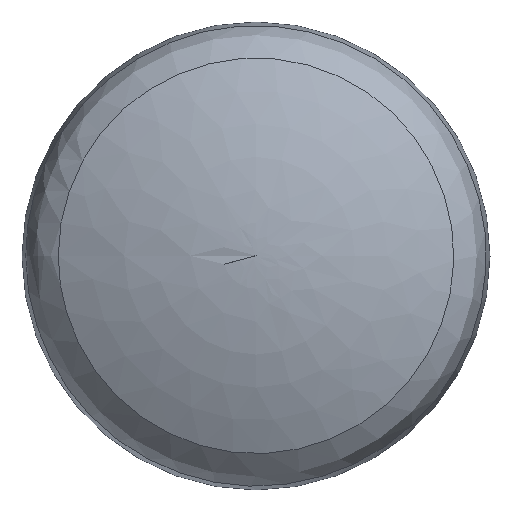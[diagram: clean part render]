
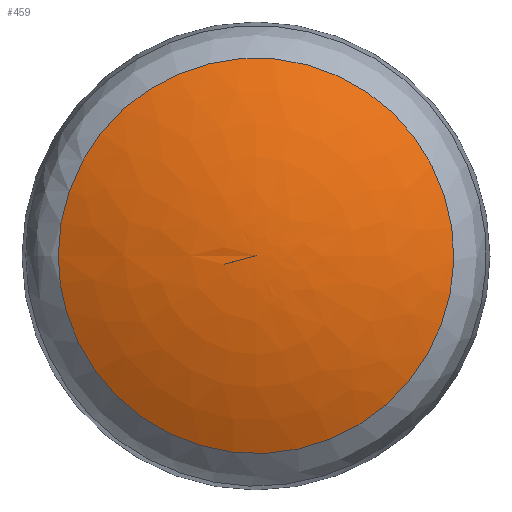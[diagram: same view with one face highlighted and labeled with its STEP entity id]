
A CAD part, top view. The second image highlights one B-rep face of the part: STEP entity #459.
In plain terms, the highlighted free-form (B-spline) face has degree [3, 3] with [15, 4] control points.
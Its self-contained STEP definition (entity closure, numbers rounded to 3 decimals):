
#81=FACE_OUTER_BOUND('',#110,.T.);
#110=EDGE_LOOP('',(#314,#315,#316));
#144=B_SPLINE_CURVE_WITH_KNOTS('',3,(#732,#733,#734,#735,#736,#737,#738,
#739,#740,#741,#742,#743,#744,#745),.UNSPECIFIED.,.T.,.F.,(4,1,2,1,2,1,
2,1,4),(0.,0.785,1.571,2.356,
3.142,3.927,4.712,5.498,6.283),
 .UNSPECIFIED.);
#146=B_SPLINE_CURVE_WITH_KNOTS('',3,(#821,#822,#823,#824),.UNSPECIFIED.,
 .F.,.F.,(4,4),(0.134,1.),.UNSPECIFIED.);
#194=VERTEX_POINT('',#730);
#195=VERTEX_POINT('',#820);
#242=EDGE_CURVE('',#194,#194,#144,.T.);
#244=EDGE_CURVE('',#194,#195,#146,.T.);
#314=ORIENTED_EDGE('',*,*,#242,.F.);
#315=ORIENTED_EDGE('',*,*,#244,.T.);
#316=ORIENTED_EDGE('',*,*,#244,.F.);
#449=B_SPLINE_SURFACE_WITH_KNOTS('',3,3,((#760,#761,#762,#763),(#764,#765,
#766,#767),(#768,#769,#770,#771),(#772,#773,#774,#775),(#776,#777,#778,
#779),(#780,#781,#782,#783),(#784,#785,#786,#787),(#788,#789,#790,#791),
(#792,#793,#794,#795),(#796,#797,#798,#799),(#800,#801,#802,#803),(#804,
#805,#806,#807),(#808,#809,#810,#811),(#812,#813,#814,#815),(#816,#817,
#818,#819)),.UNSPECIFIED.,.T.,.F.,.F.,(4,1,1,1,1,1,1,1,1,1,1,1,4),(4,4),
(-1.,-0.917,-0.833,-0.75,-0.667,-0.583,
-0.5,-0.417,-0.333,-0.25,-0.167,-0.083,
0.),(0.134,1.),.UNSPECIFIED.);
#459=ADVANCED_FACE('',(#81),#449,.F.);
#730=CARTESIAN_POINT('',(-6.929,0.,16.55));
#732=CARTESIAN_POINT('Ctrl Pts',(-6.934,0.,
16.55));
#733=CARTESIAN_POINT('Ctrl Pts',(-6.934,1.814,16.55));
#734=CARTESIAN_POINT('Ctrl Pts',(-5.429,5.428,16.55));
#735=CARTESIAN_POINT('Ctrl Pts',(-1.813,6.934,16.55));
#736=CARTESIAN_POINT('Ctrl Pts',(1.814,6.934,16.55));
#737=CARTESIAN_POINT('Ctrl Pts',(5.429,5.429,16.55));
#738=CARTESIAN_POINT('Ctrl Pts',(6.934,1.814,16.55));
#739=CARTESIAN_POINT('Ctrl Pts',(6.934,-1.814,16.55));
#740=CARTESIAN_POINT('Ctrl Pts',(5.429,-5.429,16.55));
#741=CARTESIAN_POINT('Ctrl Pts',(1.814,-6.934,16.55));
#742=CARTESIAN_POINT('Ctrl Pts',(-1.813,-6.934,16.55));
#743=CARTESIAN_POINT('Ctrl Pts',(-5.429,-5.428,16.55));
#744=CARTESIAN_POINT('Ctrl Pts',(-6.934,-1.814,16.55));
#745=CARTESIAN_POINT('Ctrl Pts',(-6.934,0.,
16.55));
#760=CARTESIAN_POINT('Ctrl Pts',(-6.929,0.,
16.55));
#761=CARTESIAN_POINT('Ctrl Pts',(-4.62,0.,
17.65));
#762=CARTESIAN_POINT('Ctrl Pts',(-2.31,0.,
18.2));
#763=CARTESIAN_POINT('Ctrl Pts',(0.,0.,18.2));
#764=CARTESIAN_POINT('Ctrl Pts',(-6.929,1.209,16.55));
#765=CARTESIAN_POINT('Ctrl Pts',(-4.62,0.806,17.65));
#766=CARTESIAN_POINT('Ctrl Pts',(-2.31,0.403,18.2));
#767=CARTESIAN_POINT('Ctrl Pts',(0.,0.,18.2));
#768=CARTESIAN_POINT('Ctrl Pts',(-6.283,3.628,16.55));
#769=CARTESIAN_POINT('Ctrl Pts',(-4.189,2.419,17.65));
#770=CARTESIAN_POINT('Ctrl Pts',(-2.093,1.209,18.2));
#771=CARTESIAN_POINT('Ctrl Pts',(0.,0.,18.2));
#772=CARTESIAN_POINT('Ctrl Pts',(-3.626,6.281,16.55));
#773=CARTESIAN_POINT('Ctrl Pts',(-2.417,4.188,17.65));
#774=CARTESIAN_POINT('Ctrl Pts',(-1.209,2.093,18.2));
#775=CARTESIAN_POINT('Ctrl Pts',(0.,0.,18.2));
#776=CARTESIAN_POINT('Ctrl Pts',(0.,7.253,16.55));
#777=CARTESIAN_POINT('Ctrl Pts',(0.,4.835,17.65));
#778=CARTESIAN_POINT('Ctrl Pts',(0.,2.418,
18.2));
#779=CARTESIAN_POINT('Ctrl Pts',(0.,0.,18.2));
#780=CARTESIAN_POINT('Ctrl Pts',(3.628,6.282,16.55));
#781=CARTESIAN_POINT('Ctrl Pts',(2.419,4.189,17.65));
#782=CARTESIAN_POINT('Ctrl Pts',(1.209,2.093,18.2));
#783=CARTESIAN_POINT('Ctrl Pts',(0.,0.,18.2));
#784=CARTESIAN_POINT('Ctrl Pts',(6.281,3.626,16.55));
#785=CARTESIAN_POINT('Ctrl Pts',(4.187,2.418,17.65));
#786=CARTESIAN_POINT('Ctrl Pts',(2.093,1.209,18.2));
#787=CARTESIAN_POINT('Ctrl Pts',(0.,0.,18.2));
#788=CARTESIAN_POINT('Ctrl Pts',(7.253,0.,
16.55));
#789=CARTESIAN_POINT('Ctrl Pts',(4.835,0.,17.65));
#790=CARTESIAN_POINT('Ctrl Pts',(2.418,0.,
18.2));
#791=CARTESIAN_POINT('Ctrl Pts',(0.,0.,18.2));
#792=CARTESIAN_POINT('Ctrl Pts',(6.281,-3.626,16.55));
#793=CARTESIAN_POINT('Ctrl Pts',(4.187,-2.418,17.65));
#794=CARTESIAN_POINT('Ctrl Pts',(2.093,-1.209,18.2));
#795=CARTESIAN_POINT('Ctrl Pts',(0.,0.,18.2));
#796=CARTESIAN_POINT('Ctrl Pts',(3.628,-6.282,16.55));
#797=CARTESIAN_POINT('Ctrl Pts',(2.419,-4.189,17.65));
#798=CARTESIAN_POINT('Ctrl Pts',(1.209,-2.093,18.2));
#799=CARTESIAN_POINT('Ctrl Pts',(0.,0.,18.2));
#800=CARTESIAN_POINT('Ctrl Pts',(0.,-7.253,
16.55));
#801=CARTESIAN_POINT('Ctrl Pts',(0.,-4.835,
17.65));
#802=CARTESIAN_POINT('Ctrl Pts',(0.,-2.418,
18.2));
#803=CARTESIAN_POINT('Ctrl Pts',(0.,0.,18.2));
#804=CARTESIAN_POINT('Ctrl Pts',(-3.626,-6.281,16.55));
#805=CARTESIAN_POINT('Ctrl Pts',(-2.417,-4.188,17.65));
#806=CARTESIAN_POINT('Ctrl Pts',(-1.209,-2.093,18.2));
#807=CARTESIAN_POINT('Ctrl Pts',(0.,0.,18.2));
#808=CARTESIAN_POINT('Ctrl Pts',(-6.283,-3.628,16.55));
#809=CARTESIAN_POINT('Ctrl Pts',(-4.189,-2.419,17.65));
#810=CARTESIAN_POINT('Ctrl Pts',(-2.093,-1.209,18.2));
#811=CARTESIAN_POINT('Ctrl Pts',(0.,0.,18.2));
#812=CARTESIAN_POINT('Ctrl Pts',(-6.929,-1.209,16.55));
#813=CARTESIAN_POINT('Ctrl Pts',(-4.62,-0.806,17.65));
#814=CARTESIAN_POINT('Ctrl Pts',(-2.31,-0.403,18.2));
#815=CARTESIAN_POINT('Ctrl Pts',(0.,0.,18.2));
#816=CARTESIAN_POINT('Ctrl Pts',(-6.929,0.,
16.55));
#817=CARTESIAN_POINT('Ctrl Pts',(-4.62,0.,
17.65));
#818=CARTESIAN_POINT('Ctrl Pts',(-2.31,0.,
18.2));
#819=CARTESIAN_POINT('Ctrl Pts',(0.,0.,18.2));
#820=CARTESIAN_POINT('',(0.,0.,18.2));
#821=CARTESIAN_POINT('Ctrl Pts',(-6.929,0.,
16.55));
#822=CARTESIAN_POINT('Ctrl Pts',(-4.619,0.,
17.65));
#823=CARTESIAN_POINT('Ctrl Pts',(-2.31,0.,
18.2));
#824=CARTESIAN_POINT('Ctrl Pts',(0.,0.,18.2));
